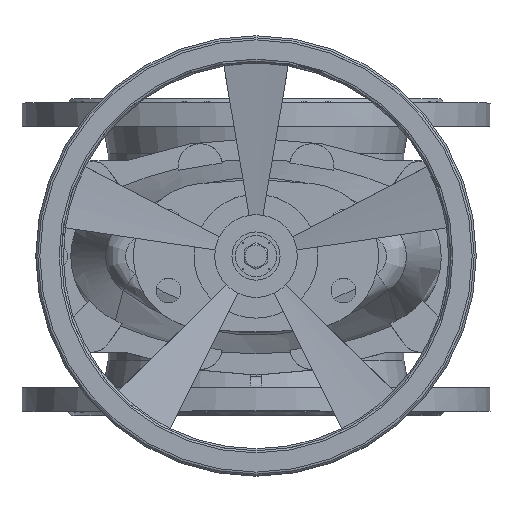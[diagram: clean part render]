
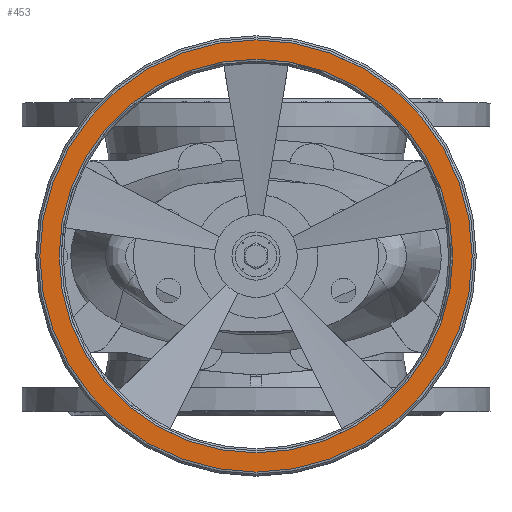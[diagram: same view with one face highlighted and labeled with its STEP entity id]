
A CAD part, top view. The second image highlights one B-rep face of the part: STEP entity #453.
In plain terms, the highlighted planar face has unit normal (0, 0, 1).
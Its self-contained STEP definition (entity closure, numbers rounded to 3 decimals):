
#453=ADVANCED_FACE('',(#3059,#3061),#3063,.T.);
#3059=FACE_BOUND('',#3060,.T.);
#3060=EDGE_LOOP('',(#5967));
#3061=FACE_BOUND('',#3062,.T.);
#3062=EDGE_LOOP('',(#5968));
#3063=PLANE('',#3064);
#3064=AXIS2_PLACEMENT_3D('',#3065,#3066,#3067);
#3065=CARTESIAN_POINT('',(0.,0.,517.));
#3066=DIRECTION('',(0.,0.,1.));
#3067=DIRECTION('',(0.,-1.,0.));
#5967=ORIENTED_EDGE('',*,*,#7553,.T.);
#5968=ORIENTED_EDGE('',*,*,#7516,.F.);
#7516=EDGE_CURVE('',#8408,#8408,#8409,.T.);
#7553=EDGE_CURVE('',#8463,#8463,#8464,.T.);
#8408=VERTEX_POINT('',#10284);
#8409=CIRCLE('',#10285,143.);
#8463=VERTEX_POINT('',#10426);
#8464=CIRCLE('',#10427,157.);
#10284=CARTESIAN_POINT('',(0.,-143.,517.));
#10285=AXIS2_PLACEMENT_3D('',#10286,#10287,#10288);
#10286=CARTESIAN_POINT('',(0.,0.,517.));
#10287=DIRECTION('',(0.,0.,1.));
#10288=DIRECTION('',(0.,-1.,0.));
#10426=CARTESIAN_POINT('',(0.,-157.,517.));
#10427=AXIS2_PLACEMENT_3D('',#10428,#10429,#10430);
#10428=CARTESIAN_POINT('',(0.,0.,517.));
#10429=DIRECTION('',(0.,0.,1.));
#10430=DIRECTION('',(0.,-1.,0.));
